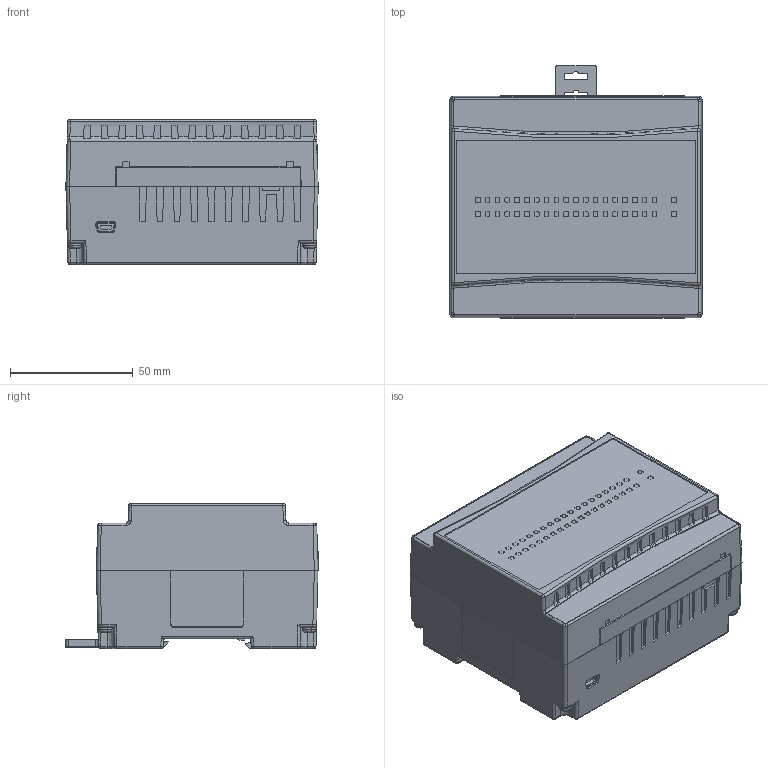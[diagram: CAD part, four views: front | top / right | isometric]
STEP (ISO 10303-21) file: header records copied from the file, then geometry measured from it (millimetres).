
FILE_DESCRIPTION (( 'STEP AP214' ), '1' );
FILE_NAME ('EXF-RC15 Assem_STEP.STEP', '2014-07-29T08:00:09', ( 'dell' ), ( '' ), 'SwSTEP 2.0', 'SolidWorks 2011', '' );
FILE_SCHEMA (( 'AUTOMOTIVE_DESIGN' ));
Length unit declared in the file: millimetre
Products named in the file (1): EXF-RC15 Assem_STEP
Bounding box: 102.83 x 102.93 x 59.2 mm (x, y, z)
Volume: 490684 mm3; surface area: 61615.4 mm2
Topology: 1 solids, 10 shells, 1574 faces, 4234 edges, 2744 vertices
Faces by surface type: plane 1032, cylinder 390, cone 64, bspline 46, torus 24, sphere 18
Entity records: 49864 total; most frequent: CARTESIAN_POINT 12111, ORIENTED_EDGE 8468, DIRECTION 7082, EDGE_CURVE 4234, LINE 2888, VECTOR 2888, VERTEX_POINT 2744, AXIS2_PLACEMENT_3D 2097
